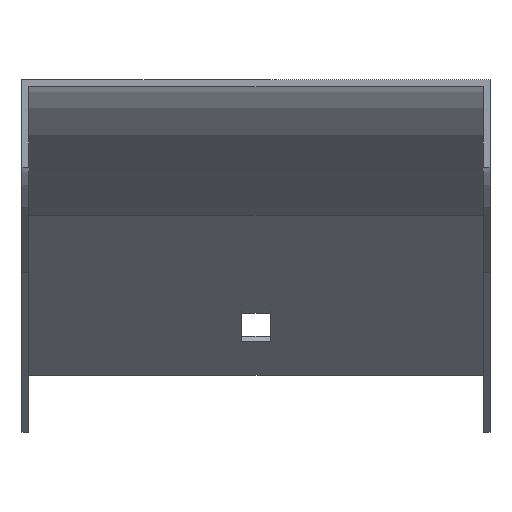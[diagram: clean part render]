
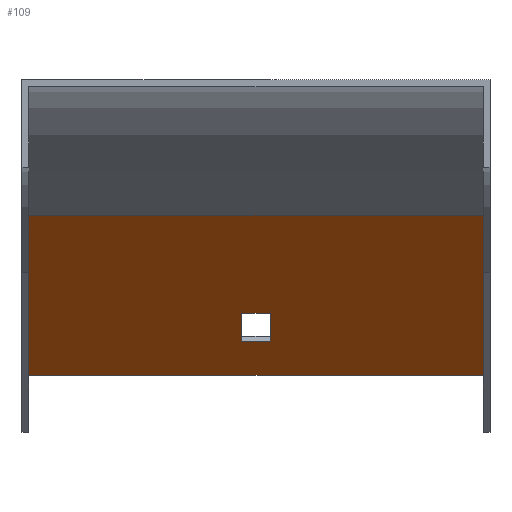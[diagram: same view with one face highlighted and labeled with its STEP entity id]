
A CAD part, top view. The second image highlights one B-rep face of the part: STEP entity #109.
In plain terms, the highlighted planar face has unit normal (0, -0.707, 0.707).
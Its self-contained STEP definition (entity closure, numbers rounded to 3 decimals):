
#12 = LINE ( 'NONE', #183, #324 ) ;
#22 = VECTOR ( 'NONE', #675, 1000. ) ;
#42 = LINE ( 'NONE', #108, #487 ) ;
#48 = CARTESIAN_POINT ( 'NONE',  ( -52., -67.234, -158.695 ) ) ;
#49 = EDGE_CURVE ( 'NONE', #585, #243, #338, .T. ) ;
#54 = ORIENTED_EDGE ( 'NONE', *, *, #556, .T. ) ;
#69 = EDGE_CURVE ( 'NONE', #630, #143, #336, .T. ) ;
#71 = FACE_OUTER_BOUND ( 'NONE', #654, .T. ) ;
#98 = CARTESIAN_POINT ( 'NONE',  ( 53.5, -53.091, -144.553 ) ) ;
#107 = CARTESIAN_POINT ( 'NONE',  ( 52., -30.789, -122.251 ) ) ;
#108 = CARTESIAN_POINT ( 'NONE',  ( 53.5, -67.234, -158.695 ) ) ;
#109 = ADVANCED_FACE ( 'NONE', ( #71, #802 ), #743, .T. ) ;
#115 = VECTOR ( 'NONE', #784, 1000. ) ;
#123 = CARTESIAN_POINT ( 'NONE',  ( 53.5, -30.789, -122.251 ) ) ;
#134 = EDGE_LOOP ( 'NONE', ( #565, #701, #54, #492 ) ) ;
#135 = EDGE_CURVE ( 'NONE', #791, #143, #12, .T. ) ;
#138 = VERTEX_POINT ( 'NONE', #586 ) ;
#141 = VECTOR ( 'NONE', #686, 1000. ) ;
#143 = VERTEX_POINT ( 'NONE', #721 ) ;
#144 = DIRECTION ( 'NONE',  ( 0., 0.707, 0.707 ) ) ;
#148 = DIRECTION ( 'NONE',  ( 0., -0.707, -0.707 ) ) ;
#183 = CARTESIAN_POINT ( 'NONE',  ( 53.5, -30.789, -122.251 ) ) ;
#202 = CARTESIAN_POINT ( 'NONE',  ( 3.25, -30.789, -122.251 ) ) ;
#211 = CARTESIAN_POINT ( 'NONE',  ( 52., -30.789, -122.251 ) ) ;
#232 = ORIENTED_EDGE ( 'NONE', *, *, #135, .T. ) ;
#243 = VERTEX_POINT ( 'NONE', #653 ) ;
#321 = EDGE_CURVE ( 'NONE', #613, #138, #583, .T. ) ;
#324 = VECTOR ( 'NONE', #651, 1000. ) ;
#327 = ORIENTED_EDGE ( 'NONE', *, *, #531, .F. ) ;
#336 = LINE ( 'NONE', #612, #466 ) ;
#337 = LINE ( 'NONE', #211, #726 ) ;
#338 = LINE ( 'NONE', #202, #22 ) ;
#356 = CARTESIAN_POINT ( 'NONE',  ( 3.25, -53.091, -144.553 ) ) ;
#373 = CARTESIAN_POINT ( 'NONE',  ( 52., -67.234, -158.695 ) ) ;
#410 = EDGE_CURVE ( 'NONE', #243, #613, #682, .T. ) ;
#412 = EDGE_CURVE ( 'NONE', #530, #791, #337, .T. ) ;
#466 = VECTOR ( 'NONE', #144, 1000. ) ;
#487 = VECTOR ( 'NONE', #508, 1000. ) ;
#492 = ORIENTED_EDGE ( 'NONE', *, *, #49, .T. ) ;
#508 = DIRECTION ( 'NONE',  ( -1., 0., 0. ) ) ;
#530 = VERTEX_POINT ( 'NONE', #373 ) ;
#531 = EDGE_CURVE ( 'NONE', #530, #630, #42, .T. ) ;
#551 = DIRECTION ( 'NONE',  ( 1., 0., 0. ) ) ;
#556 = EDGE_CURVE ( 'NONE', #138, #585, #694, .T. ) ;
#565 = ORIENTED_EDGE ( 'NONE', *, *, #410, .T. ) ;
#583 = LINE ( 'NONE', #853, #115 ) ;
#585 = VERTEX_POINT ( 'NONE', #356 ) ;
#586 = CARTESIAN_POINT ( 'NONE',  ( -3.25, -53.091, -144.553 ) ) ;
#612 = CARTESIAN_POINT ( 'NONE',  ( -52., -30.789, -122.251 ) ) ;
#613 = VERTEX_POINT ( 'NONE', #696 ) ;
#630 = VERTEX_POINT ( 'NONE', #48 ) ;
#651 = DIRECTION ( 'NONE',  ( -1., 0., 0. ) ) ;
#653 = CARTESIAN_POINT ( 'NONE',  ( 3.25, -59.455, -150.917 ) ) ;
#654 = EDGE_LOOP ( 'NONE', ( #724, #327, #733, #232 ) ) ;
#675 = DIRECTION ( 'NONE',  ( 0., -0.707, -0.707 ) ) ;
#678 = DIRECTION ( 'NONE',  ( 0., 0.707, 0.707 ) ) ;
#682 = LINE ( 'NONE', #819, #141 ) ;
#686 = DIRECTION ( 'NONE',  ( -1., 0., 0. ) ) ;
#694 = LINE ( 'NONE', #98, #793 ) ;
#696 = CARTESIAN_POINT ( 'NONE',  ( -3.25, -59.455, -150.917 ) ) ;
#701 = ORIENTED_EDGE ( 'NONE', *, *, #321, .T. ) ;
#721 = CARTESIAN_POINT ( 'NONE',  ( -52., -30.789, -122.251 ) ) ;
#724 = ORIENTED_EDGE ( 'NONE', *, *, #69, .F. ) ;
#726 = VECTOR ( 'NONE', #678, 1000. ) ;
#733 = ORIENTED_EDGE ( 'NONE', *, *, #412, .T. ) ;
#743 = PLANE ( 'NONE',  #830 ) ;
#776 = DIRECTION ( 'NONE',  ( 0., -0.707, 0.707 ) ) ;
#784 = DIRECTION ( 'NONE',  ( 0., 0.707, 0.707 ) ) ;
#791 = VERTEX_POINT ( 'NONE', #107 ) ;
#793 = VECTOR ( 'NONE', #551, 1000. ) ;
#802 = FACE_BOUND ( 'NONE', #134, .T. ) ;
#819 = CARTESIAN_POINT ( 'NONE',  ( 53.5, -59.455, -150.917 ) ) ;
#830 = AXIS2_PLACEMENT_3D ( 'NONE', #123, #776, #148 ) ;
#853 = CARTESIAN_POINT ( 'NONE',  ( -3.25, -30.789, -122.251 ) ) ;
